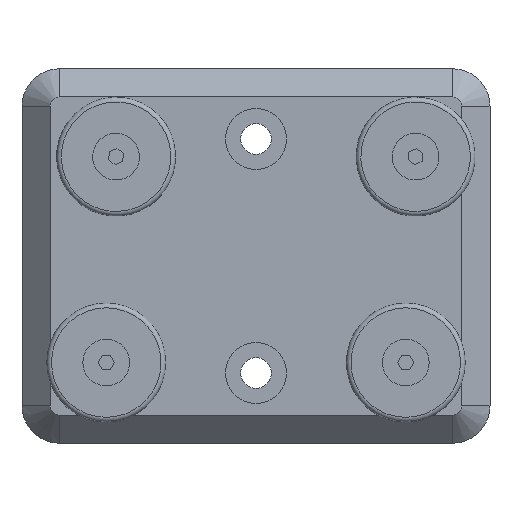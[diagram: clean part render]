
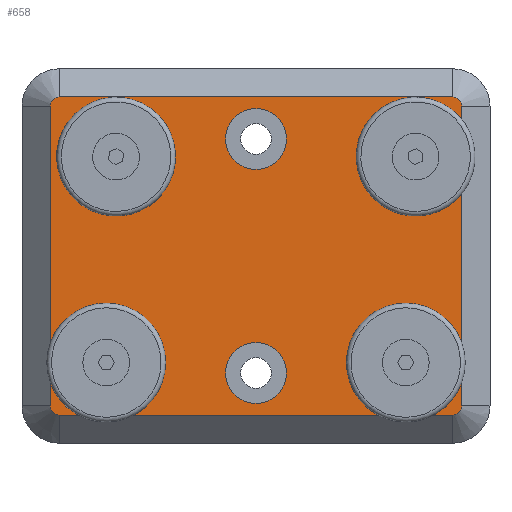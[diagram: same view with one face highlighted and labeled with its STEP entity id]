
A CAD part, front view. The second image highlights one B-rep face of the part: STEP entity #658.
In plain terms, the highlighted planar face has unit normal (0, -1, 0).
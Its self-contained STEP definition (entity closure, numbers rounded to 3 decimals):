
#658=ADVANCED_FACE('',(#933,#934,#935,#936,#937,#938,#939),#940,.T.);
#933=FACE_BOUND('',#1559,.T.);
#934=FACE_BOUND('',#1560,.T.);
#935=FACE_BOUND('',#1561,.T.);
#936=FACE_BOUND('',#1562,.T.);
#937=FACE_BOUND('',#1563,.T.);
#938=FACE_BOUND('',#1564,.T.);
#939=FACE_OUTER_BOUND('',#1565,.T.);
#940=PLANE('',#1566);
#1559=EDGE_LOOP('',(#2215));
#1560=EDGE_LOOP('',(#2216));
#1561=EDGE_LOOP('',(#2217));
#1562=EDGE_LOOP('',(#2218));
#1563=EDGE_LOOP('',(#2219));
#1564=EDGE_LOOP('',(#2220));
#1565=EDGE_LOOP('',(#2221,#2222,#2223,#2224,#2225,#2226,#2227,#2228));
#1566=AXIS2_PLACEMENT_3D('',#2229,#2230,#2231);
#2215=ORIENTED_EDGE('',*,*,#3922,.F.);
#2216=ORIENTED_EDGE('',*,*,#3923,.F.);
#2217=ORIENTED_EDGE('',*,*,#3924,.F.);
#2218=ORIENTED_EDGE('',*,*,#3925,.F.);
#2219=ORIENTED_EDGE('',*,*,#3926,.F.);
#2220=ORIENTED_EDGE('',*,*,#3894,.F.);
#2221=ORIENTED_EDGE('',*,*,#3927,.T.);
#2222=ORIENTED_EDGE('',*,*,#3928,.T.);
#2223=ORIENTED_EDGE('',*,*,#3929,.T.);
#2224=ORIENTED_EDGE('',*,*,#3930,.T.);
#2225=ORIENTED_EDGE('',*,*,#3931,.T.);
#2226=ORIENTED_EDGE('',*,*,#3932,.T.);
#2227=ORIENTED_EDGE('',*,*,#3933,.T.);
#2228=ORIENTED_EDGE('',*,*,#3934,.T.);
#2229=CARTESIAN_POINT('',(21.0,-8.,-16.0));
#2230=DIRECTION('',(0.0,-1.0,0.));
#2231=DIRECTION('',(1.0,0.,0.));
#3894=EDGE_CURVE('',#4374,#4374,#4375,.T.);
#3922=EDGE_CURVE('',#4430,#4430,#4431,.T.);
#3923=EDGE_CURVE('',#4432,#4432,#4433,.T.);
#3924=EDGE_CURVE('',#4434,#4434,#4435,.T.);
#3925=EDGE_CURVE('',#4436,#4436,#4437,.T.);
#3926=EDGE_CURVE('',#4438,#4438,#4439,.T.);
#3927=EDGE_CURVE('',#4440,#4441,#4442,.T.);
#3928=EDGE_CURVE('',#4441,#4443,#4444,.T.);
#3929=EDGE_CURVE('',#4443,#4445,#4446,.T.);
#3930=EDGE_CURVE('',#4445,#4447,#4448,.T.);
#3931=EDGE_CURVE('',#4447,#4449,#4450,.T.);
#3932=EDGE_CURVE('',#4449,#4451,#4452,.T.);
#3933=EDGE_CURVE('',#4451,#4453,#4454,.T.);
#3934=EDGE_CURVE('',#4453,#4440,#4455,.T.);
#4374=VERTEX_POINT('',#5180);
#4375=CIRCLE('',#5181,3.25);
#4430=VERTEX_POINT('',#5250);
#4431=CIRCLE('',#5251,2.0);
#4432=VERTEX_POINT('',#5252);
#4433=CIRCLE('',#5253,2.0);
#4434=VERTEX_POINT('',#5254);
#4435=CIRCLE('',#5255,2.0);
#4436=VERTEX_POINT('',#5256);
#4437=CIRCLE('',#5257,2.0);
#4438=VERTEX_POINT('',#5258);
#4439=CIRCLE('',#5259,3.25);
#4440=VERTEX_POINT('',#5260);
#4441=VERTEX_POINT('',#5261);
#4442=LINE('',#5262,#5263);
#4443=VERTEX_POINT('',#5264);
#4444=CIRCLE('',#5265,1.0);
#4445=VERTEX_POINT('',#5266);
#4446=LINE('',#5267,#5268);
#4447=VERTEX_POINT('',#5269);
#4448=CIRCLE('',#5270,1.0);
#4449=VERTEX_POINT('',#5271);
#4450=LINE('',#5272,#5273);
#4451=VERTEX_POINT('',#5274);
#4452=CIRCLE('',#5275,1.0);
#4453=VERTEX_POINT('',#5276);
#4454=LINE('',#5277,#5278);
#4455=CIRCLE('',#5279,1.0);
#5180=CARTESIAN_POINT('',(0.,-8.,9.25));
#5181=AXIS2_PLACEMENT_3D('',#6626,#6627,#6628);
#5250=CARTESIAN_POINT('',(-16.0,-8.,9.385));
#5251=AXIS2_PLACEMENT_3D('',#6682,#6683,#6684);
#5252=CARTESIAN_POINT('',(-16.0,-8.,-13.385));
#5253=AXIS2_PLACEMENT_3D('',#6685,#6686,#6687);
#5254=CARTESIAN_POINT('',(16.0,-8.,-13.385));
#5255=AXIS2_PLACEMENT_3D('',#6688,#6689,#6690);
#5256=CARTESIAN_POINT('',(16.0,-8.,9.385));
#5257=AXIS2_PLACEMENT_3D('',#6691,#6692,#6693);
#5258=CARTESIAN_POINT('',(0.,-8.,-15.75));
#5259=AXIS2_PLACEMENT_3D('',#6694,#6695,#6696);
#5260=CARTESIAN_POINT('',(-21.0,-8.,-17.0));
#5261=CARTESIAN_POINT('',(21.0,-8.,-17.0));
#5262=CARTESIAN_POINT('',(21.0,-8.,-17.0));
#5263=VECTOR('',#6697,1.0);
#5264=CARTESIAN_POINT('',(22.0,-8.,-16.0));
#5265=AXIS2_PLACEMENT_3D('',#6698,#6699,#6700);
#5266=CARTESIAN_POINT('',(22.0,-8.,16.));
#5267=CARTESIAN_POINT('',(22.0,-8.,16.));
#5268=VECTOR('',#6701,1.0);
#5269=CARTESIAN_POINT('',(21.0,-8.,17.));
#5270=AXIS2_PLACEMENT_3D('',#6702,#6703,#6704);
#5271=CARTESIAN_POINT('',(-21.0,-8.,17.0));
#5272=CARTESIAN_POINT('',(-21.0,-8.,17.0));
#5273=VECTOR('',#6705,1.0);
#5274=CARTESIAN_POINT('',(-22.0,-8.,16.0));
#5275=AXIS2_PLACEMENT_3D('',#6706,#6707,#6708);
#5276=CARTESIAN_POINT('',(-22.0,-8.,-16.0));
#5277=CARTESIAN_POINT('',(-22.0,-8.,-16.0));
#5278=VECTOR('',#6709,1.0);
#5279=AXIS2_PLACEMENT_3D('',#6710,#6711,#6712);
#6626=CARTESIAN_POINT('',(0.,-8.,12.5));
#6627=DIRECTION('',(0.,-1.0,0.));
#6628=DIRECTION('',(0.,0.,-1.0));
#6682=CARTESIAN_POINT('',(-16.0,-8.,11.385));
#6683=DIRECTION('',(0.,-1.0,0.));
#6684=DIRECTION('',(0.,0.,-1.0));
#6685=CARTESIAN_POINT('',(-16.0,-8.,-11.385));
#6686=DIRECTION('',(0.,-1.0,0.));
#6687=DIRECTION('',(0.,0.,-1.0));
#6688=CARTESIAN_POINT('',(16.0,-8.,-11.385));
#6689=DIRECTION('',(0.,-1.0,0.));
#6690=DIRECTION('',(0.,0.,-1.0));
#6691=CARTESIAN_POINT('',(16.0,-8.,11.385));
#6692=DIRECTION('',(0.,-1.0,0.));
#6693=DIRECTION('',(0.,0.,-1.0));
#6694=CARTESIAN_POINT('',(0.,-8.,-12.5));
#6695=DIRECTION('',(0.,-1.0,0.));
#6696=DIRECTION('',(0.,0.,-1.0));
#6697=DIRECTION('',(1.0,0.,0.));
#6698=CARTESIAN_POINT('',(21.0,-8.,-16.0));
#6699=DIRECTION('',(0.,-1.0,0.));
#6700=DIRECTION('',(0.,0.,-1.0));
#6701=DIRECTION('',(0.,0.,1.0));
#6702=CARTESIAN_POINT('',(21.0,-8.,16.));
#6703=DIRECTION('',(0.,-1.0,0.));
#6704=DIRECTION('',(0.,0.,-1.0));
#6705=DIRECTION('',(-1.0,0.,0.));
#6706=CARTESIAN_POINT('',(-21.0,-8.,16.0));
#6707=DIRECTION('',(0.,-1.0,0.));
#6708=DIRECTION('',(0.,0.,-1.0));
#6709=DIRECTION('',(0.,0.,-1.0));
#6710=CARTESIAN_POINT('',(-21.0,-8.,-16.0));
#6711=DIRECTION('',(0.,-1.0,0.));
#6712=DIRECTION('',(0.,0.,-1.0));
